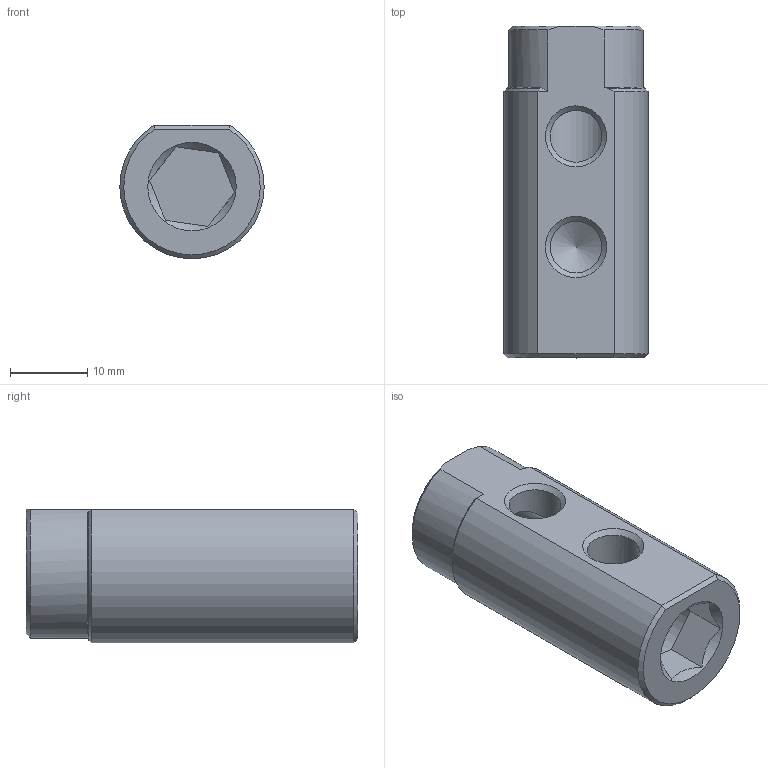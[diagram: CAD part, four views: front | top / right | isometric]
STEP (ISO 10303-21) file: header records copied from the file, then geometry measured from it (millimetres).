
FILE_DESCRIPTION(/* description */ (''),/* implementation_level */ '2;1');
FILE_NAME(/* name */ 'C:/Users/drich/Desktop/E16H-2 v2.step',/* time_stamp */ '2019-11-18T13:42:38-06:00',/* author */ (''),/* organization */ (''),/* preprocessor_version */ 'ST-DEVELOPER v18',/* originating_system */ 'Autodesk Translation Framework v8.12.0.6',/* authorisation */ '');
FILE_SCHEMA (('AUTOMOTIVE_DESIGN { 1 0 10303 214 3 1 1 }'));
Length unit declared in the file: inch
Products named in the file (2): E16H-2; E16H-2_1
Assembly tree (1 placements, depth 2):
  E16H-2
    E16H-2_1
Bounding box: 18.64 x 42.85 x 17.25 mm (x, y, z)
Volume: 8439.9 mm3; surface area: 4073.4 mm2
Topology: 1 solids, 1 shells, 30 faces, 78 edges, 52 vertices
Faces by surface type: plane 13, cone 9, cylinder 7, torus 1
Full cylindrical faces by diameter (mm): 5.474 x1, 6.697 x2, 8.707 x1, 11.176 x1
Entity records: 1101 total; most frequent: CARTESIAN_POINT 326, ORIENTED_EDGE 154, DIRECTION 145, EDGE_CURVE 77, AXIS2_PLACEMENT_3D 57, VERTEX_POINT 52, EDGE_LOOP 37, LINE 31
